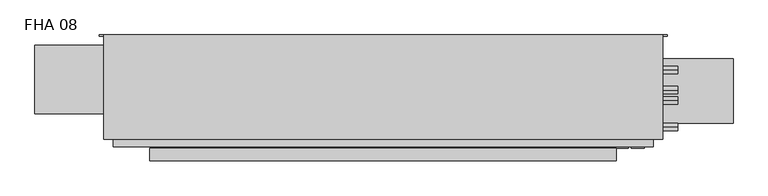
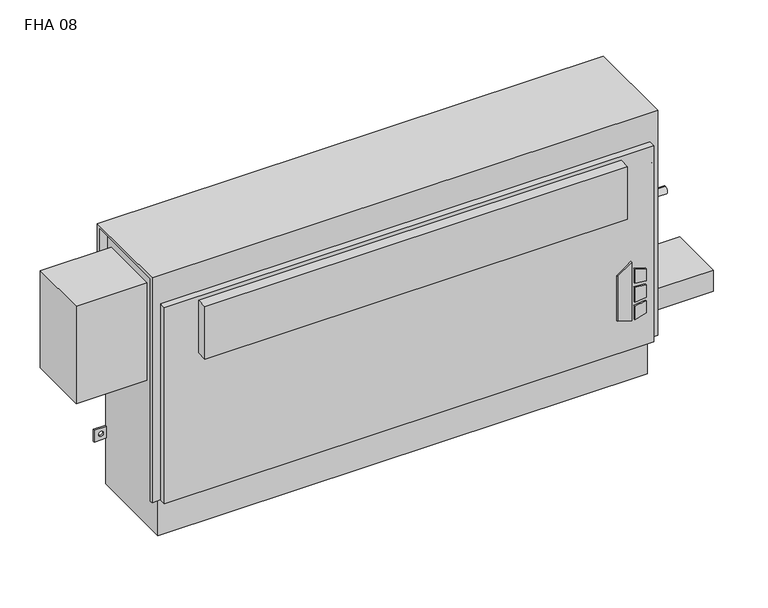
"""IFC4 building model written with IfcOpenShell, lengths in millimetres: proxy geometry, Vertical_Fan_Coil_Unit_-_FHA_-_IEC_-_4-Pipe_FS-FR_RH_2022 : FHA 08."""

from ifc_helpers import new_model, si_unit, point, frame, frame_2d, origin, place, context, project, spatial, polyline, circle_curve, trimmed, segment, composite_curve, outline, extrude, source, transform, mapped, element, save
from ifc_brep_helpers import plane_surface, revolved_surface, advanced_brep


def fha_08_3f7fb936(model_context):
    return source(origin(), model_context, "Body", "SolidModel", [
        extrude(outline(polyline([(172.5771459, 627.1368862), (162.6290756, 659.3102728), (304.8, 659.3102728), (281.7779939, 627.1368862), (172.5771459, 627.1368862)])), frame((0.0, 9.525, 0.0), z_axis=(0.0, 1.0, 0.0), x_axis=(0.0, 0.0, 1.0)), (0.0, 0.0, 1.0), 3.175),
        extrude(outline(polyline([(251.5764313, 666.0686058), (248.3740387, 692.15), (277.6028798, 692.15), (285.6672948, 666.0686058), (251.5764313, 666.0686058)])), frame((0.0, 9.525, 0.0), z_axis=(0.0, 1.0, 0.0), x_axis=(0.0, 0.0, 1.0)), (0.0, 0.0, 1.0), 3.175),
        extrude(outline(polyline([(199.7129044, 692.15), (196.0474034, 666.0686058), (162.6290756, 666.0686058), (171.2633128, 692.15), (199.7129044, 692.15)])), frame((0.0, 9.525, 0.0), z_axis=(0.0, 1.0, 0.0), x_axis=(0.0, 0.0, 1.0)), (0.0, 0.0, 1.0), 3.175),
        extrude(outline(polyline([(239.0280658, 692.15), (241.3098921, 666.0686058), (205.3723436, 666.0686058), (208.1136086, 692.15), (239.0280658, 692.15)])), frame((0.0, 9.525, 0.0), z_axis=(0.0, 1.0, 0.0), x_axis=(0.0, 0.0, 1.0)), (0.0, 0.0, 1.0), 3.175),
        extrude(outline(composite_curve([segment(trimmed(circle_curve(frame_2d((774.7, 128.5875)), 9.525), [point((765.175, 128.5875))], [point((784.225, 128.5875))], False, "CARTESIAN"), True, "CONTINUOUS"), segment(trimmed(circle_curve(frame_2d((774.7, 128.5875)), 9.525), [point((784.225, 128.5875))], [point((765.175, 128.5875))], False, "CARTESIAN"), True, "CONTINUOUS")], self_intersect=False)), frame((0.0, 0.0, 101.6), z_axis=(0.0, 0.0, 1.0), x_axis=(1.0, 0.0, 0.0)), (0.0, 0.0, 1.0), 25.4),
        extrude(outline(polyline([(876.3, 195.2625), (876.3, 61.9125), (711.2, 61.9125), (711.2, 195.2625), (876.3, 195.2625)])), frame((0.0, 0.0, 127.0), z_axis=(0.0, 0.0, 1.0), x_axis=(1.0, 0.0, 0.0)), (0.0, 0.0, 1.0), 50.8),
        extrude(outline(polyline([(635.0, -15.875), (-330.2, -15.875), (-330.2, 9.525), (635.0, 9.525), (635.0, -15.875)])), frame((0.0, 0.0, 431.8), z_axis=(0.0, 0.0, 1.0), x_axis=(1.0, 0.0, 0.0)), (0.0, 0.0, 1.0), 127.0),
        extrude(outline(composite_curve([segment(trimmed(circle_curve(frame_2d((109.0168, 457.2)), 7.9375), [point((109.0168, 449.2625))], [point((109.0168, 465.1375))], False, "CARTESIAN"), True, "CONTINUOUS"), segment(trimmed(circle_curve(frame_2d((109.0168, 457.2)), 7.9375), [point((109.0168, 465.1375))], [point((109.0168, 449.2625))], False, "CARTESIAN"), True, "CONTINUOUS")], self_intersect=False)), frame((711.2, 0.0, 0.0), z_axis=(1.0, 0.0, 0.0), x_axis=(0.0, 1.0, 0.0)), (0.0, 0.0, 1.0), 50.8),
        extrude(outline(composite_curve([segment(trimmed(circle_curve(frame_2d((172.085, 460.0194)), 7.9375), [point((172.085, 452.0819))], [point((172.085, 467.9569))], False, "CARTESIAN"), True, "CONTINUOUS"), segment(trimmed(circle_curve(frame_2d((172.085, 460.0194)), 7.9375), [point((172.085, 467.9569))], [point((172.085, 452.0819))], False, "CARTESIAN"), True, "CONTINUOUS")], self_intersect=False)), frame((711.2, 0.0, 0.0), z_axis=(1.0, 0.0, 0.0), x_axis=(0.0, 1.0, 0.0)), (0.0, 0.0, 1.0), 50.8),
        extrude(outline(composite_curve([segment(trimmed(circle_curve(frame_2d((130.175, 554.99)), 7.9502), [point((130.175, 547.0398))], [point((130.175, 562.9402))], False, "CARTESIAN"), True, "CONTINUOUS"), segment(trimmed(circle_curve(frame_2d((130.175, 554.99)), 7.9502), [point((130.175, 562.9402))], [point((130.175, 547.0398))], False, "CARTESIAN"), True, "CONTINUOUS")], self_intersect=False)), frame((711.2, 0.0, 0.0), z_axis=(1.0, 0.0, 0.0), x_axis=(0.0, 1.0, 0.0)), (0.0, 0.0, 1.0), 50.8),
        extrude(outline(composite_curve([segment(trimmed(circle_curve(frame_2d((53.975, 416.56)), 7.9502), [point((53.975, 408.6098))], [point((53.975, 424.5102))], False, "CARTESIAN"), True, "CONTINUOUS"), segment(trimmed(circle_curve(frame_2d((53.975, 416.56)), 7.9502), [point((53.975, 424.5102))], [point((53.975, 408.6098))], False, "CARTESIAN"), True, "CONTINUOUS")], self_intersect=False)), frame((711.2, 0.0, 0.0), z_axis=(1.0, 0.0, 0.0), x_axis=(0.0, 1.0, 0.0)), (0.0, 0.0, 1.0), 50.8),
        extrude(outline(polyline([(-406.4, 223.266), (-406.4, 81.534), (-568.325, 81.534), (-568.325, 223.266), (-406.4, 223.266)])), frame((0.0, 0.0, 349.25), z_axis=(0.0, 0.0, 1.0), x_axis=(1.0, 0.0, 0.0)), (0.0, 0.0, 1.0), 234.95),
        advanced_brep(
        [(730.25, 244.475, 635.0), (-425.45, 244.475, 635.0), (-425.45, 28.575, 635.0), (730.25, 28.575, 635.0), (-406.4, 244.475, 0.0), (711.2, 244.475, 0.0), (711.2, 38.1, 0.0), (-406.4, 38.1, 0.0), (730.25, 244.475, 558.8), (711.2, 244.475, 558.8), (711.2, 244.475, 414.3375), (739.775, 244.475, 414.3375), (739.775, 244.475, 385.7625), (711.2, 244.475, 385.7625), (711.2, 244.475, 287.3375), (739.775, 244.475, 287.3375), (739.775, 244.475, 258.7625), (711.2, 244.475, 258.7625), (711.2, 244.475, 141.2875), (739.775, 244.475, 141.2875), (739.775, 244.475, 112.7125), (711.2, 244.475, 112.7125), (-406.4, 244.475, 112.7125), (-434.975, 244.475, 112.7125), (-434.975, 244.475, 141.2875), (-406.4, 244.475, 141.2875), (-406.4, 244.475, 258.7625), (-434.975, 244.475, 258.7625), (-434.975, 244.475, 287.3375), (-406.4, 244.475, 287.3375), (-406.4, 244.475, 385.7625), (-434.975, 244.475, 385.7625), (-434.975, 244.475, 414.3375), (-406.4, 244.475, 414.3375), (-406.4, 244.475, 558.8), (-425.45, 244.475, 558.8), (729.4626, 244.475, 127.0), (718.3374, 244.475, 127.0), (-413.5374, 244.475, 127.0), (-424.6626, 244.475, 127.0), (729.4626, 244.475, 273.05), (718.3374, 244.475, 273.05), (-413.5374, 244.475, 273.05), (-424.6626, 244.475, 273.05), (729.4626, 244.475, 400.05), (718.3374, 244.475, 400.05), (-413.5374, 244.475, 400.05), (-424.6626, 244.475, 400.05), (-425.45, 238.125, 558.8), (-425.45, 238.125, 628.65), (-425.45, 34.925, 628.65), (-425.45, 34.925, 92.075), (-425.45, 28.575, 92.075), (711.2, 12.7, 565.15), (-406.4, 12.7, 565.15), (-406.4, 12.7, 92.075), (711.2, 12.7, 92.075), (730.25, 28.575, 92.075), (730.25, 34.925, 92.075), (730.25, 34.925, 628.65), (730.25, 238.125, 628.65), (730.25, 238.125, 558.8), (-406.4, 28.575, 92.075), (-406.4, 28.575, 565.15), (711.2, 28.575, 565.15), (711.2, 28.575, 92.075), (-406.4, 34.925, 92.075), (-406.4, 38.1, 92.075), (711.2, 38.1, 92.075), (711.2, 34.925, 92.075), (711.2, 241.3, 112.7125), (711.2, 241.3, 141.2875), (711.2, 241.3, 258.7625), (711.2, 241.3, 287.3375), (711.2, 241.3, 385.7625), (711.2, 241.3, 414.3375), (711.2, 238.125, 558.8), (711.2, 238.125, 628.65), (711.2, 34.925, 628.65), (-406.4, 34.925, 628.65), (-406.4, 238.125, 628.65), (-406.4, 238.125, 558.8), (-406.4, 241.3, 414.3375), (-406.4, 241.3, 385.7625), (-406.4, 241.3, 287.3375), (-406.4, 241.3, 258.7625), (-406.4, 241.3, 141.2875), (-406.4, 241.3, 112.7125), (739.775, 241.3, 112.7125), (739.775, 241.3, 141.2875), (718.3374, 241.3, 127.0), (729.4626, 241.3, 127.0), (739.775, 241.3, 258.7625), (739.775, 241.3, 287.3375), (718.3374, 241.3, 273.05), (729.4626, 241.3, 273.05), (739.775, 241.3, 385.7625), (739.775, 241.3, 414.3375), (718.3374, 241.3, 400.05), (729.4626, 241.3, 400.05), (-434.975, 241.3, 141.2875), (-434.975, 241.3, 112.7125), (-424.6626, 241.3, 127.0), (-413.5374, 241.3, 127.0), (-434.975, 241.3, 287.3375), (-434.975, 241.3, 258.7625), (-424.6626, 241.3, 273.05), (-413.5374, 241.3, 273.05), (-434.975, 241.3, 414.3375), (-434.975, 241.3, 385.7625), (-424.6626, 241.3, 400.05), (-413.5374, 241.3, 400.05)],
        [
            (0, 1),
            (1, 2),
            (2, 3),
            (3, 0),
            (4, 5),
            (5, 6),
            (6, 7),
            (7, 4),
            (0, 8),
            (8, 9),
            (9, 10),
            (10, 11),
            (11, 12),
            (12, 13),
            (13, 14),
            (14, 15),
            (15, 16),
            (16, 17),
            (17, 18),
            (18, 19),
            (19, 20),
            (20, 21),
            (21, 5),
            (4, 22),
            (22, 23),
            (23, 24),
            (24, 25),
            (25, 26),
            (26, 27),
            (27, 28),
            (28, 29),
            (29, 30),
            (30, 31),
            (31, 32),
            (32, 33),
            (33, 34),
            (34, 35),
            (35, 1),
            (36, 37, circle_curve(frame((723.9, 244.475, 127.0), z_axis=(0.0, -1.0, 0.0), x_axis=(-1.0, 0.0, 0.0)), 5.5626)),
            (37, 36, circle_curve(frame((723.9, 244.475, 127.0), z_axis=(0.0, -1.0, 0.0), x_axis=(-1.0, 0.0, 0.0)), 5.5626)),
            (38, 39, circle_curve(frame((-419.1, 244.475, 127.0), z_axis=(0.0, -1.0, 0.0), x_axis=(-1.0, 0.0, 0.0)), 5.5626)),
            (39, 38, circle_curve(frame((-419.1, 244.475, 127.0), z_axis=(0.0, -1.0, 0.0), x_axis=(-1.0, 0.0, 0.0)), 5.5626)),
            (40, 41, circle_curve(frame((723.9, 244.475, 273.05), z_axis=(0.0, -1.0, 0.0), x_axis=(-1.0, 0.0, 0.0)), 5.5626)),
            (41, 40, circle_curve(frame((723.9, 244.475, 273.05), z_axis=(0.0, -1.0, 0.0), x_axis=(-1.0, 0.0, 0.0)), 5.5626)),
            (42, 43, circle_curve(frame((-419.1, 244.475, 273.05), z_axis=(0.0, -1.0, 0.0), x_axis=(-1.0, 0.0, 0.0)), 5.5626)),
            (43, 42, circle_curve(frame((-419.1, 244.475, 273.05), z_axis=(0.0, -1.0, 0.0), x_axis=(-1.0, 0.0, 0.0)), 5.5626)),
            (44, 45, circle_curve(frame((723.9, 244.475, 400.05), z_axis=(0.0, -1.0, 0.0), x_axis=(-1.0, 0.0, 0.0)), 5.5626)),
            (45, 44, circle_curve(frame((723.9, 244.475, 400.05), z_axis=(0.0, -1.0, 0.0), x_axis=(-1.0, 0.0, 0.0)), 5.5626)),
            (46, 47, circle_curve(frame((-419.1, 244.475, 400.05), z_axis=(0.0, -1.0, 0.0), x_axis=(-1.0, 0.0, 0.0)), 5.5626)),
            (47, 46, circle_curve(frame((-419.1, 244.475, 400.05), z_axis=(0.0, -1.0, 0.0), x_axis=(-1.0, 0.0, 0.0)), 5.5626)),
            (35, 48),
            (48, 49),
            (49, 50),
            (50, 51),
            (51, 52),
            (52, 2),
            (53, 54),
            (54, 55),
            (55, 56),
            (56, 53),
            (3, 57),
            (57, 58),
            (58, 59),
            (59, 60),
            (60, 61),
            (61, 8),
            (52, 62),
            (62, 63),
            (63, 64),
            (64, 65),
            (65, 57),
            (53, 64),
            (63, 54),
            (55, 62),
            (51, 66),
            (66, 67),
            (67, 68),
            (68, 69),
            (69, 58),
            (65, 56),
            (6, 68),
            (67, 7),
            (21, 70),
            (70, 71),
            (71, 18),
            (17, 72),
            (72, 73),
            (73, 14),
            (13, 74),
            (74, 75),
            (75, 10),
            (9, 76),
            (76, 77),
            (77, 78),
            (78, 69),
            (66, 79),
            (79, 80),
            (80, 81),
            (81, 34),
            (33, 82),
            (82, 83),
            (83, 30),
            (29, 84),
            (84, 85),
            (85, 26),
            (25, 86),
            (86, 87),
            (87, 22),
            (76, 61),
            (60, 77),
            (78, 59),
            (50, 79),
            (81, 48),
            (80, 49),
            (70, 88),
            (88, 89),
            (89, 71),
            (90, 91, circle_curve(frame((723.9, 241.3, 127.0), z_axis=(0.0, 1.0, 0.0), x_axis=(-1.0, 0.0, 0.0)), 5.5626)),
            (91, 90, circle_curve(frame((723.9, 241.3, 127.0), z_axis=(0.0, 1.0, 0.0), x_axis=(-1.0, 0.0, 0.0)), 5.5626)),
            (92, 93),
            (93, 73),
            (72, 92),
            (94, 95, circle_curve(frame((723.9, 241.3, 273.05), z_axis=(0.0, 1.0, 0.0), x_axis=(-1.0, 0.0, 0.0)), 5.5626)),
            (95, 94, circle_curve(frame((723.9, 241.3, 273.05), z_axis=(0.0, 1.0, 0.0), x_axis=(-1.0, 0.0, 0.0)), 5.5626)),
            (96, 97),
            (97, 75),
            (74, 96),
            (98, 99, circle_curve(frame((723.9, 241.3, 400.05), z_axis=(0.0, 1.0, 0.0), x_axis=(-1.0, 0.0, 0.0)), 5.5626)),
            (99, 98, circle_curve(frame((723.9, 241.3, 400.05), z_axis=(0.0, 1.0, 0.0), x_axis=(-1.0, 0.0, 0.0)), 5.5626)),
            (100, 101),
            (101, 87),
            (86, 100),
            (102, 103, circle_curve(frame((-419.1, 241.3, 127.0), z_axis=(0.0, 1.0, 0.0), x_axis=(-1.0, 0.0, 0.0)), 5.5626)),
            (103, 102, circle_curve(frame((-419.1, 241.3, 127.0), z_axis=(0.0, 1.0, 0.0), x_axis=(-1.0, 0.0, 0.0)), 5.5626)),
            (84, 104),
            (104, 105),
            (105, 85),
            (106, 107, circle_curve(frame((-419.1, 241.3, 273.05), z_axis=(0.0, 1.0, 0.0), x_axis=(-1.0, 0.0, 0.0)), 5.5626)),
            (107, 106, circle_curve(frame((-419.1, 241.3, 273.05), z_axis=(0.0, 1.0, 0.0), x_axis=(-1.0, 0.0, 0.0)), 5.5626)),
            (108, 109),
            (109, 83),
            (82, 108),
            (110, 111, circle_curve(frame((-419.1, 241.3, 400.05), z_axis=(0.0, 1.0, 0.0), x_axis=(-1.0, 0.0, 0.0)), 5.5626)),
            (111, 110, circle_curve(frame((-419.1, 241.3, 400.05), z_axis=(0.0, 1.0, 0.0), x_axis=(-1.0, 0.0, 0.0)), 5.5626)),
            (89, 19),
            (88, 20),
            (16, 92),
            (93, 15),
            (12, 96),
            (97, 11),
            (24, 100),
            (101, 23),
            (105, 27),
            (104, 28),
            (32, 108),
            (109, 31),
            (90, 37),
            (36, 91),
            (102, 39),
            (38, 103),
            (94, 41),
            (40, 95),
            (106, 43),
            (42, 107),
            (98, 45),
            (44, 99),
            (110, 47),
            (46, 111),
        ],
        [
            plane_surface(frame((-425.45, 244.475, 635.0), z_axis=(0.0, 0.0, 1.0), x_axis=(-1.0, 0.0, 0.0))),
            plane_surface(frame((-425.45, 244.475, 0.0), z_axis=(0.0, 0.0, -1.0), x_axis=(1.0, 0.0, 0.0))),
            plane_surface(frame((730.25, 244.475, 635.0), z_axis=(0.0, 1.0, 0.0), x_axis=(0.0, 0.0, -1.0))),
            plane_surface(frame((-425.45, 244.475, 635.0), z_axis=(-1.0, 0.0, 0.0), x_axis=(0.0, 0.0, -1.0))),
            plane_surface(frame((-425.45, 12.7, 635.0), z_axis=(0.0, -1.0, 0.0), x_axis=(0.0, 0.0, -1.0))),
            plane_surface(frame((730.25, 12.7, 635.0), z_axis=(1.0, 0.0, 0.0), x_axis=(0.0, 0.0, -1.0))),
            plane_surface(frame((-704.85, 28.575, 635.0), z_axis=(0.0, -1.0, 0.0), x_axis=(1.0, 0.0, 0.0))),
            plane_surface(frame((-704.85, 28.575, 565.15), z_axis=(0.0, 0.0, 1.0), x_axis=(1.0, 0.0, 0.0))),
            plane_surface(frame((-425.45, 12.7, 92.075), z_axis=(0.0, 0.0, -1.0), x_axis=(1.0, 0.0, 0.0))),
            plane_surface(frame((-425.45, 38.1, 92.075), z_axis=(0.0, -1.0, 0.0), x_axis=(1.0, 0.0, 0.0))),
            plane_surface(frame((711.2, 28.575, 92.075), z_axis=(1.0, 0.0, 0.0), x_axis=(0.0, -1.0, 0.0))),
            plane_surface(frame((-406.4, 28.575, 565.15), z_axis=(-1.0, 0.0, 0.0), x_axis=(0.0, -1.0, 0.0))),
            plane_surface(frame((711.2, 244.475, 0.0), z_axis=(1.0, 0.0, 0.0), x_axis=(0.0, -1.0, 0.0))),
            plane_surface(frame((-406.4, 244.475, 92.075), z_axis=(-1.0, 0.0, 0.0), x_axis=(0.0, -1.0, 0.0))),
            plane_surface(frame((711.2, 238.125, 628.65), z_axis=(0.0, -1.0, 0.0), x_axis=(1.0, 0.0, 0.0))),
            plane_surface(frame((711.2, 238.125, 558.8), z_axis=(0.0, 0.0, -1.0), x_axis=(1.0, 0.0, 0.0))),
            plane_surface(frame((711.2, 34.925, 92.075), z_axis=(0.0, 1.0, 0.0), x_axis=(1.0, 0.0, 0.0))),
            plane_surface(frame((711.2, 34.925, 628.65), z_axis=(0.0, 0.0, -1.0), x_axis=(1.0, 0.0, 0.0))),
            plane_surface(frame((-406.4, 34.925, 628.65), z_axis=(0.0, 1.0, 0.0), x_axis=(-1.0, 0.0, 0.0))),
            plane_surface(frame((-406.4, 244.475, 558.8), z_axis=(0.0, 0.0, -1.0), x_axis=(-1.0, 0.0, 0.0))),
            plane_surface(frame((-406.4, 238.125, 558.8), z_axis=(0.0, -1.0, 0.0), x_axis=(-1.0, 0.0, 0.0))),
            plane_surface(frame((-406.4, 238.125, 628.65), z_axis=(0.0, 0.0, -1.0), x_axis=(-1.0, 0.0, 0.0))),
            plane_surface(frame((739.775, 241.3, 141.2875), z_axis=(0.0, -1.0, 0.0), x_axis=(-1.0, 0.0, 0.0))),
            plane_surface(frame((711.2, 244.475, 141.2875), z_axis=(0.0, 0.0, 1.0), x_axis=(0.0, -1.0, 0.0))),
            plane_surface(frame((739.775, 244.475, 141.2875), z_axis=(1.0, 0.0, 0.0), x_axis=(0.0, -1.0, 0.0))),
            plane_surface(frame((739.775, 244.475, 112.7125), z_axis=(0.0, 0.0, -1.0), x_axis=(0.0, -1.0, 0.0))),
            plane_surface(frame((739.775, 244.475, 258.7625), z_axis=(0.0, 0.0, -1.0), x_axis=(0.0, -1.0, 0.0))),
            plane_surface(frame((711.2, 244.475, 287.3375), z_axis=(0.0, 0.0, 1.0), x_axis=(0.0, -1.0, 0.0))),
            plane_surface(frame((739.775, 244.475, 287.3375), z_axis=(1.0, 0.0, 0.0), x_axis=(0.0, -1.0, 0.0))),
            plane_surface(frame((739.775, 244.475, 385.7625), z_axis=(0.0, 0.0, -1.0), x_axis=(0.0, -1.0, 0.0))),
            plane_surface(frame((711.2, 244.475, 414.3375), z_axis=(0.0, 0.0, 1.0), x_axis=(0.0, -1.0, 0.0))),
            plane_surface(frame((739.775, 244.475, 414.3375), z_axis=(1.0, 0.0, 0.0), x_axis=(0.0, -1.0, 0.0))),
            plane_surface(frame((-434.975, 244.475, 141.2875), z_axis=(0.0, 0.0, 1.0), x_axis=(0.0, -1.0, 0.0))),
            plane_surface(frame((-406.4, 244.475, 112.7125), z_axis=(0.0, 0.0, -1.0), x_axis=(0.0, -1.0, 0.0))),
            plane_surface(frame((-434.975, 244.475, 112.7125), z_axis=(-1.0, 0.0, 0.0), x_axis=(0.0, -1.0, 0.0))),
            plane_surface(frame((-406.4, 244.475, 258.7625), z_axis=(0.0, 0.0, -1.0), x_axis=(0.0, -1.0, 0.0))),
            plane_surface(frame((-434.975, 244.475, 258.7625), z_axis=(-1.0, 0.0, 0.0), x_axis=(0.0, -1.0, 0.0))),
            plane_surface(frame((-434.975, 244.475, 287.3375), z_axis=(0.0, 0.0, 1.0), x_axis=(0.0, -1.0, 0.0))),
            plane_surface(frame((-434.975, 244.475, 414.3375), z_axis=(0.0, 0.0, 1.0), x_axis=(0.0, -1.0, 0.0))),
            plane_surface(frame((-406.4, 244.475, 385.7625), z_axis=(0.0, 0.0, -1.0), x_axis=(0.0, -1.0, 0.0))),
            plane_surface(frame((-434.975, 244.475, 385.7625), z_axis=(-1.0, 0.0, 0.0), x_axis=(0.0, -1.0, 0.0))),
            revolved_surface(polyline([(718.3374, 241.3, 127.0), (718.3374, 244.475, 127.0)]), (723.9, 244.475, 127.0), (0.0, -1.0, 0.0)),
            revolved_surface(polyline([(-424.6626, 241.3, 127.0), (-424.6626, 244.475, 127.0)]), (-419.1, 244.475, 127.0), (0.0, -1.0, 0.0)),
            revolved_surface(polyline([(718.3374, 241.3, 273.05), (718.3374, 244.475, 273.05)]), (723.9, 244.475, 273.05), (0.0, -1.0, 0.0)),
            revolved_surface(polyline([(-424.6626, 241.3, 273.05), (-424.6626, 244.475, 273.05)]), (-419.1, 244.475, 273.05), (0.0, -1.0, 0.0)),
            revolved_surface(polyline([(718.3374, 241.3, 400.05), (718.3374, 244.475, 400.05)]), (723.9, 244.475, 400.05), (0.0, -1.0, 0.0)),
            revolved_surface(polyline([(-424.6626, 241.3, 400.05), (-424.6626, 244.475, 400.05)]), (-419.1, 244.475, 400.05), (0.0, -1.0, 0.0)),
        ],
        [
            (0, [[1, 2, 3, 4]]),
            (1, [[5, 6, 7, 8]]),
            (2, [[-1, 9, 10, 11, 12, 13, 14, 15, 16, 17, 18, 19, 20, 21, 22, 23, -5, 24, 25, 26, 27, 28, 29, 30, 31, 32, 33, 34, 35, 36, 37, 38], [39, 40], [41, 42], [43, 44], [45, 46], [47, 48], [49, 50]]),
            (3, [[-2, -38, 51, 52, 53, 54, 55, 56]]),
            (4, [[57, 58, 59, 60]]),
            (5, [[-4, 61, 62, 63, 64, 65, 66, -9]]),
            (6, [[-3, -56, 67, 68, 69, 70, 71, -61]]),
            (7, [[-57, 72, -69, 73]]),
            (8, [[-59, 74, -67, -55, 75, 76, 77, 78, 79, -62, -71, 80]]),
            (9, [[-7, 81, -77, 82]]),
            (10, [[-70, -72, -60, -80]]),
            (11, [[-68, -74, -58, -73]]),
            (12, [[-6, -23, 83, 84, 85, -19, 86, 87, 88, -15, 89, 90, 91, -11, 92, 93, 94, 95, -78, -81]]),
            (13, [[-8, -82, -76, 96, 97, 98, 99, -36, 100, 101, 102, -32, 103, 104, 105, -28, 106, 107, 108, -24]]),
            (14, [[-93, 109, -65, 110]]),
            (15, [[-92, -10, -66, -109]]),
            (16, [[-95, 111, -63, -79]]),
            (17, [[-94, -110, -64, -111]]),
            (18, [[-96, -75, -54, 112]]),
            (19, [[-99, 113, -51, -37]]),
            (20, [[-98, 114, -52, -113]]),
            (21, [[-97, -112, -53, -114]]),
            (22, [[115, 116, 117, -84], [118, 119]]),
            (22, [[120, 121, -87, 122], [123, 124]]),
            (22, [[125, 126, -90, 127], [128, 129]]),
            (22, [[130, 131, -107, 132], [133, 134]]),
            (22, [[135, 136, 137, -104], [138, 139]]),
            (22, [[140, 141, -101, 142], [143, 144]]),
            (23, [[-117, 145, -20, -85]]),
            (24, [[-116, 146, -21, -145]]),
            (25, [[-115, -83, -22, -146]]),
            (26, [[-122, -86, -18, 147]]),
            (27, [[-121, 148, -16, -88]]),
            (28, [[-120, -147, -17, -148]]),
            (29, [[-127, -89, -14, 149]]),
            (30, [[-126, 150, -12, -91]]),
            (31, [[-125, -149, -13, -150]]),
            (32, [[-132, -106, -27, 151]]),
            (33, [[-131, 152, -25, -108]]),
            (34, [[-130, -151, -26, -152]]),
            (35, [[-137, 153, -29, -105]]),
            (36, [[-136, 154, -30, -153]]),
            (37, [[-135, -103, -31, -154]]),
            (38, [[-142, -100, -35, 155]]),
            (39, [[-141, 156, -33, -102]]),
            (40, [[-140, -155, -34, -156]]),
            (41, [[157, -39, 158, -118]]),
            (41, [[-157, -119, -158, -40]]),
            (42, [[159, -41, 160, -133]]),
            (42, [[-159, -134, -160, -42]]),
            (43, [[161, -43, 162, -123]]),
            (43, [[-161, -124, -162, -44]]),
            (44, [[163, -45, 164, -138]]),
            (44, [[-163, -139, -164, -46]]),
            (45, [[165, -47, 166, -128]]),
            (45, [[-165, -129, -166, -48]]),
            (46, [[167, -49, 168, -143]]),
            (46, [[-167, -144, -168, -50]]),
        ],
    ),
    ])


if __name__ == "__main__":
    model = new_model("IFC4")
    model_context = context("Model", 3, world=origin())
    ifc_project = project(units=[si_unit("LENGTHUNIT", "METRE", prefix="MILLI")], contexts=[model_context])
    site = spatial("IfcSite", under=ifc_project)
    building = spatial("IfcBuilding", under=site)
    placement = place(None, origin())
    fha_08_shape = fha_08_3f7fb936(model_context)
    element("IfcBuildingElementProxy", 1, Name="Vertical_Fan_Coil_Unit_-_FHA_-_IEC_-_4-Pipe_FS-FR_RH_2022 : FHA 08", ObjectType="Vertical_Fan_Coil_Unit_-_FHA_-_IEC_-_4-Pipe_FS-FR_RH_2022 : FHA 08", at=placement, inside=building, context=model_context, shape_type="MappedRepresentation", body=[
        mapped(fha_08_shape, transform((0.0, 0.0, 0.0), x_axis=(1.0, 0.0, 0.0), y_axis=(0.0, 1.0, 0.0), z_axis=(0.0, 0.0, 1.0))),
    ])
    save(model, "model.ifc")
